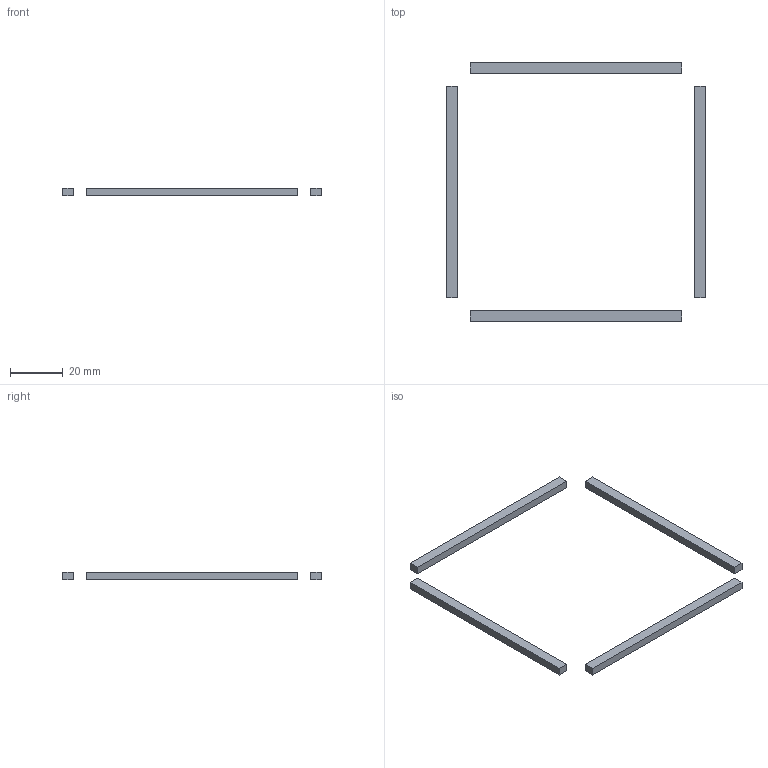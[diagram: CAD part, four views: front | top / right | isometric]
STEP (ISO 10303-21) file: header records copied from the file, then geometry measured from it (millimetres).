
FILE_DESCRIPTION(('Open CASCADE Model'),'2;1');
FILE_NAME('uhf_stowed','2026-08-12T02:42:46',('Author'),('Open CASCADE') ,'Open CASCADE STEP processor 7.9','build123d','Unknown');
FILE_SCHEMA(('AUTOMOTIVE_DESIGN { 1 0 10303 214 1 1 1 1 }'));
Length unit declared in the file: millimetre
Products named in the file (5): uhf_stowed; COMPOUND
Assembly tree (4 placements, depth 2):
  uhf_stowed
    COMPOUND
    COMPOUND
    COMPOUND
    COMPOUND
Bounding box: 98 x 98 x 3 mm (x, y, z)
Volume: 3840 mm3; surface area: 4576 mm2
Topology: 4 solids, 4 shells, 24 faces, 48 edges, 32 vertices
Faces by surface type: plane 24
Entity records: 1312 total; most frequent: CARTESIAN_POINT 205, DIRECTION 202, LINE 144, VECTOR 144, ORIENTED_EDGE 96, PCURVE 96, DEFINITIONAL_REPRESENTATION 96, EDGE_CURVE 48
